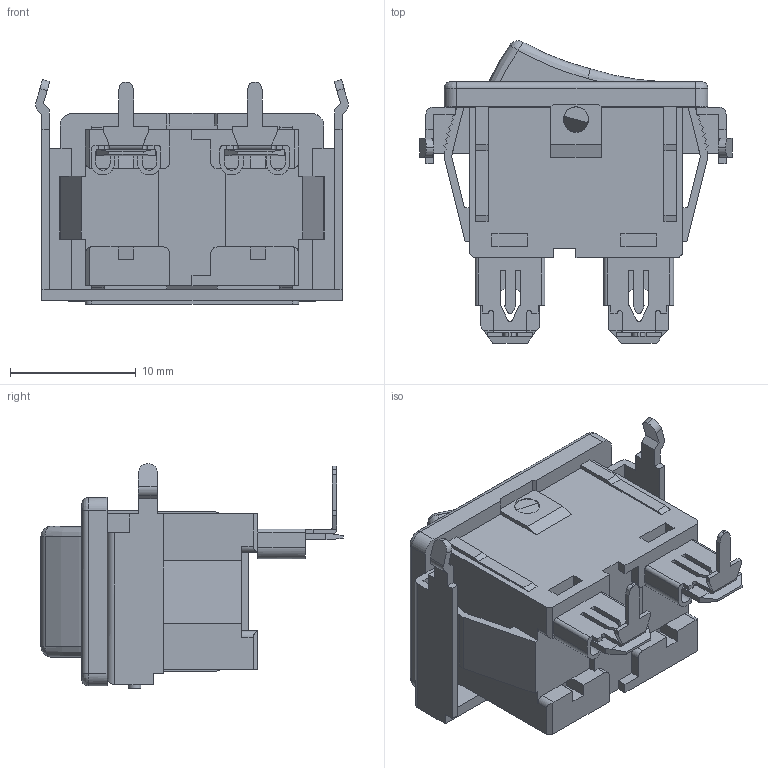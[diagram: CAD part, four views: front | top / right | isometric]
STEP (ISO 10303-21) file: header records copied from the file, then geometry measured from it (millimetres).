
FILE_DESCRIPTION (( 'STEP AP214' ), '1' );
FILE_NAME ('SDDJE12400.STEP', '2011-03-28T09:00:05', ( '' ), ( '' ), 'SwSTEP 2.0', 'SolidWorks 2007', '' );
FILE_SCHEMA (( 'AUTOMOTIVE_DESIGN' ));
Length unit declared in the file: millimetre
Products named in the file (1): SDDJE12400
Bounding box: 24.9 x 24.07 x 17.9 mm (x, y, z)
Volume: 3363 mm3; surface area: 3121.3 mm2
Topology: 2 solids, 2 shells, 488 faces, 1388 edges, 896 vertices
Faces by surface type: plane 371, cylinder 101, bspline 16
Entity records: 19450 total; most frequent: CARTESIAN_POINT 4321, ORIENTED_EDGE 2768, DIRECTION 2506, EDGE_CURVE 1384, VECTOR 1116, LINE 1116, VERTEX_POINT 896, AXIS2_PLACEMENT_3D 695
